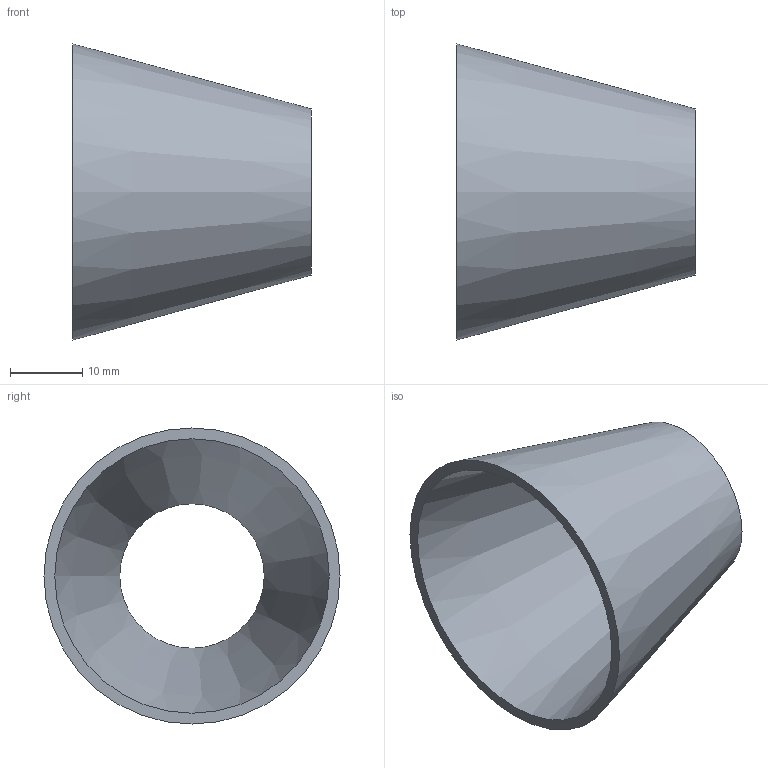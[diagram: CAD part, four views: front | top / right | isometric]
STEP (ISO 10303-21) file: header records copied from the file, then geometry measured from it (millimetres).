
FILE_DESCRIPTION(('FreeCAD Model'),'2;1');
FILE_NAME( '/home/martin/Documents/proyect/accesorios/stp/red-con_DN40-20.step', '2017-12-31T12:23:03',('Author'),(''), 'Open CASCADE STEP processor 6.8','FreeCAD','Unknown');
FILE_SCHEMA(('AUTOMOTIVE_DESIGN_CC2 { 1 2 10303 214 -1 1 5 4 }'));
Length unit declared in the file: millimetre
Products named in the file (1): red-con_DN40-20
Bounding box: 33 x 41 x 41 mm (x, y, z)
Volume: 4743 mm3; surface area: 6842.5 mm2
Topology: 1 solids, 1 shells, 4 faces, 6 edges, 4 vertices
Faces by surface type: cone 2, plane 2
Entity records: 191 total; most frequent: CARTESIAN_POINT 33, DIRECTION 26, ORIENTED_EDGE 12, PCURVE 12, DEFINITIONAL_REPRESENTATION 12, AXIS2_PLACEMENT_3D 9, CIRCLE 8, FACE_BOUND 6
